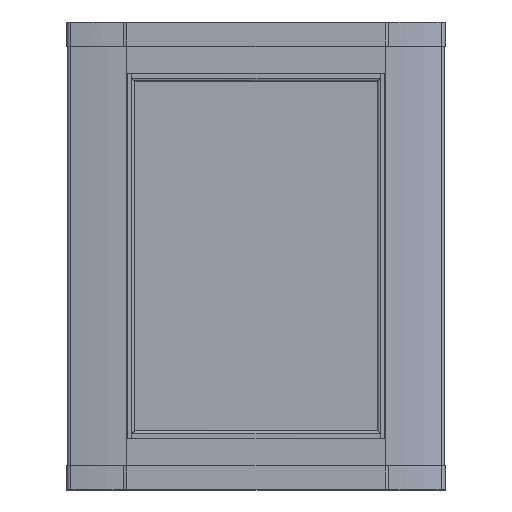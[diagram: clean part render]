
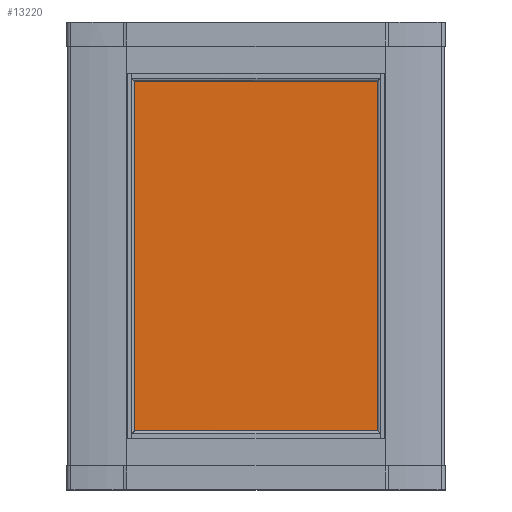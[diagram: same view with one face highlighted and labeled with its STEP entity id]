
A CAD part, top view. The second image highlights one B-rep face of the part: STEP entity #13220.
In plain terms, the highlighted planar face has unit normal (0, 0, 1).
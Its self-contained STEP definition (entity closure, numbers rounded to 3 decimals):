
#2916 = EDGE_CURVE ( 'NONE', #48770, #23492, #71502, .T. ) ;
#5221 = VECTOR ( 'NONE', #28325, 1000. ) ;
#13220 = ADVANCED_FACE ( 'NONE', ( #33705 ), #22545, .T. ) ;
#15604 = LINE ( 'NONE', #46293, #44607 ) ;
#16949 = CARTESIAN_POINT ( 'NONE',  ( 0., -199.5, 69.5 ) ) ;
#16950 = DIRECTION ( 'NONE',  ( 0., -1., 0. ) ) ;
#17023 = ORIENTED_EDGE ( 'NONE', *, *, #2916, .T. ) ;
#17659 = CARTESIAN_POINT ( 'NONE',  ( 119.5, -369., 69.5 ) ) ;
#18376 = AXIS2_PLACEMENT_3D ( 'NONE', #16949, #63308, #28660 ) ;
#20617 = ORIENTED_EDGE ( 'NONE', *, *, #36914, .T. ) ;
#22460 = CARTESIAN_POINT ( 'NONE',  ( 119.5, -199.5, 69.5 ) ) ;
#22545 = PLANE ( 'NONE',  #18376 ) ;
#23492 = VERTEX_POINT ( 'NONE', #50233 ) ;
#28325 = DIRECTION ( 'NONE',  ( 0., 1., 0. ) ) ;
#28660 = DIRECTION ( 'NONE',  ( 0., -1., 0. ) ) ;
#29957 = CARTESIAN_POINT ( 'NONE',  ( 0., -30., 69.5 ) ) ;
#33217 = EDGE_CURVE ( 'NONE', #23492, #40304, #67451, .T. ) ;
#33705 = FACE_OUTER_BOUND ( 'NONE', #34521, .T. ) ;
#33725 = EDGE_CURVE ( 'NONE', #49279, #48770, #66714, .T. ) ;
#34521 = EDGE_LOOP ( 'NONE', ( #62213, #17023, #72457, #20617 ) ) ;
#36914 = EDGE_CURVE ( 'NONE', #40304, #49279, #15604, .T. ) ;
#40304 = VERTEX_POINT ( 'NONE', #66253 ) ;
#40752 = DIRECTION ( 'NONE',  ( 1., 0., 0. ) ) ;
#42564 = VECTOR ( 'NONE', #70376, 1000. ) ;
#44607 = VECTOR ( 'NONE', #40752, 1000. ) ;
#46293 = CARTESIAN_POINT ( 'NONE',  ( 0., -369., 69.5 ) ) ;
#48770 = VERTEX_POINT ( 'NONE', #52442 ) ;
#49279 = VERTEX_POINT ( 'NONE', #17659 ) ;
#50233 = CARTESIAN_POINT ( 'NONE',  ( -119.5, -30., 69.5 ) ) ;
#52442 = CARTESIAN_POINT ( 'NONE',  ( 119.5, -30., 69.5 ) ) ;
#53916 = VECTOR ( 'NONE', #16950, 1000. ) ;
#57470 = CARTESIAN_POINT ( 'NONE',  ( -119.5, -199.5, 69.5 ) ) ;
#62213 = ORIENTED_EDGE ( 'NONE', *, *, #33725, .T. ) ;
#63308 = DIRECTION ( 'NONE',  ( 0., 0., 1. ) ) ;
#66253 = CARTESIAN_POINT ( 'NONE',  ( -119.5, -369., 69.5 ) ) ;
#66714 = LINE ( 'NONE', #22460, #5221 ) ;
#67451 = LINE ( 'NONE', #57470, #53916 ) ;
#70376 = DIRECTION ( 'NONE',  ( -1., 0., 0. ) ) ;
#71502 = LINE ( 'NONE', #29957, #42564 ) ;
#72457 = ORIENTED_EDGE ( 'NONE', *, *, #33217, .T. ) ;
